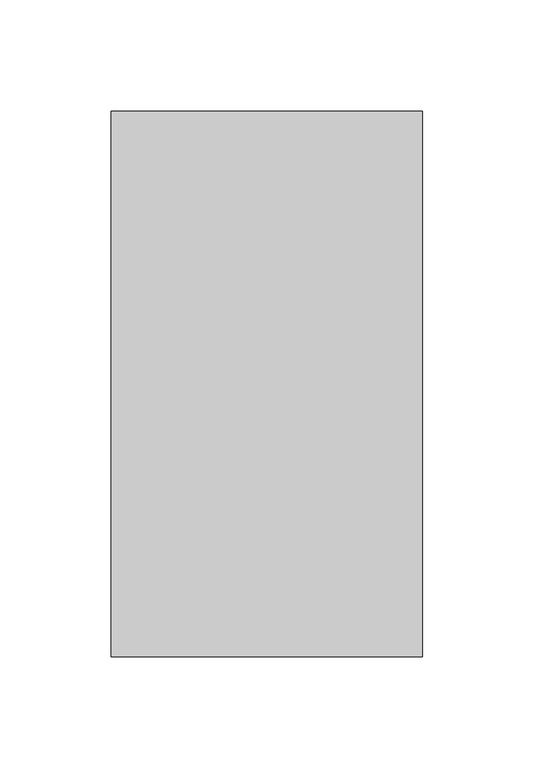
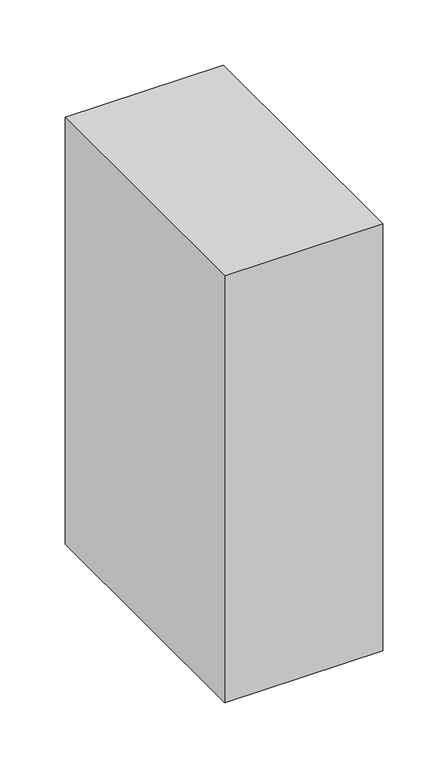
"""IFC4 building model written with IfcOpenShell, lengths in millimetres: proxy geometry."""

from ifc_helpers import new_model, si_unit, frame, origin, place, context, project, spatial, polyline, outline, extrude, source, transform, mapped, element, save


def structural_framing_17b98802(model_context):
    return source(origin(), model_context, "Body", "SweptSolid", [
        extrude(outline(polyline([(-70.0, 122.5), (70.0, 122.5), (70.0, -122.5), (-70.0, -122.5), (-70.0, 122.5)])), frame((0.0, 0.0, -400.0), z_axis=(0.0, 0.0, 1.0), x_axis=(1.0, 0.0, 0.0)), (0.0, 0.0, 1.0), 400.0),
    ])


if __name__ == "__main__":
    model = new_model("IFC4")
    model_context = context("Model", 3, world=origin())
    ifc_project = project(units=[si_unit("LENGTHUNIT", "METRE", prefix="MILLI")], contexts=[model_context])
    site = spatial("IfcSite", under=ifc_project)
    building = spatial("IfcBuilding", under=site)
    placement = place(None, origin())
    structural_framing_shape = structural_framing_17b98802(model_context)
    element("IfcBuildingElementProxy", 1, Name="Structural Framing", at=placement, inside=building, context=model_context, shape_type="MappedRepresentation", body=[
        mapped(structural_framing_shape, transform((0.0, 0.0, 0.0), x_axis=(1.0, 0.0, 0.0), y_axis=(0.0, 1.0, 0.0), z_axis=(0.0, 0.0, 1.0))),
    ])
    save(model, "model.ifc")
